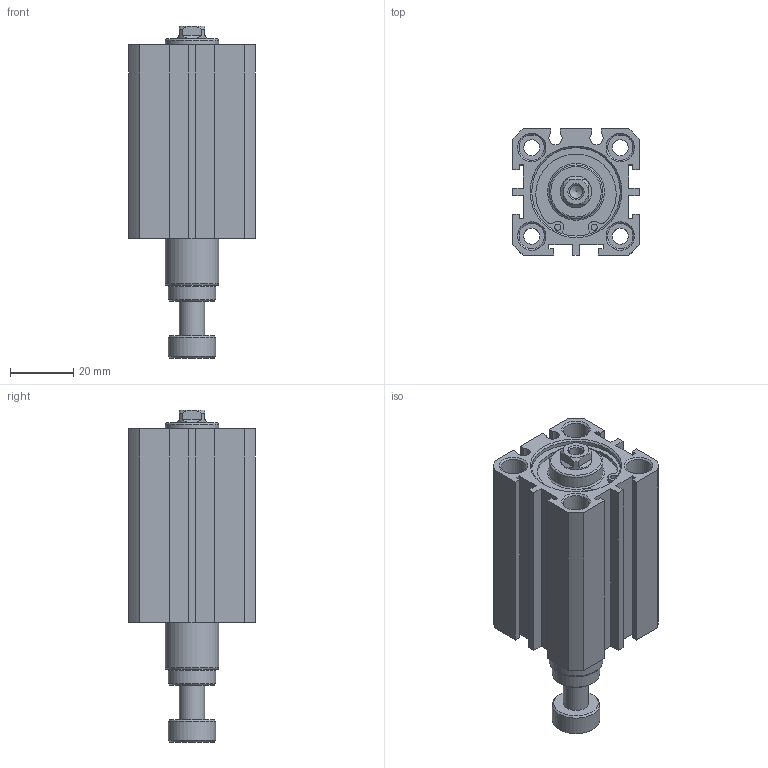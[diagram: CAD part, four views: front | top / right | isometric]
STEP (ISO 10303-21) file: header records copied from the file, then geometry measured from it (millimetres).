
FILE_DESCRIPTION((''),'2;1');
FILE_NAME('I:\3D電子目錄\氣缸\JDAR\JDAR-S\JDAR25-S\JDAR25x30-S.stp','2007-05-05T08:50:55',('662F206'),(''),'Autodesk Inventor 11','Autodesk Inventor 11','');
FILE_SCHEMA(('AUTOMOTIVE_DESIGN { 1 0 10303 214 1 1 1 1 }'));
Length unit declared in the file: millimetre
Products named in the file (3): JDAR25-S; JDAR25; R 形環 28
Assembly tree (3 placements, depth 2):
  JDAR25-S
    JDAR25
    R 形環 28  x2
Bounding box: 40 x 40 x 105.1 mm (x, y, z)
Volume: 84502.4 mm3; surface area: 25636.6 mm2
Topology: 3 solids, 3 shells, 165 faces, 384 edges, 249 vertices
Faces by surface type: plane 86, cylinder 48, cone 21, bspline 8, torus 2
Full cylindrical faces by diameter (mm): 1.5 x2, 1.9 x4, 5.1 x4, 8 x9, 10 x1, 15 x2, 17 x2, 28 x4, 29.4 x2
Entity records: 4249 total; most frequent: CARTESIAN_POINT 853, DIRECTION 706, ORIENTED_EDGE 588, EDGE_CURVE 294, AXIS2_PLACEMENT_3D 269, EDGE_LOOP 242, VERTEX_POINT 222, VECTOR 168
